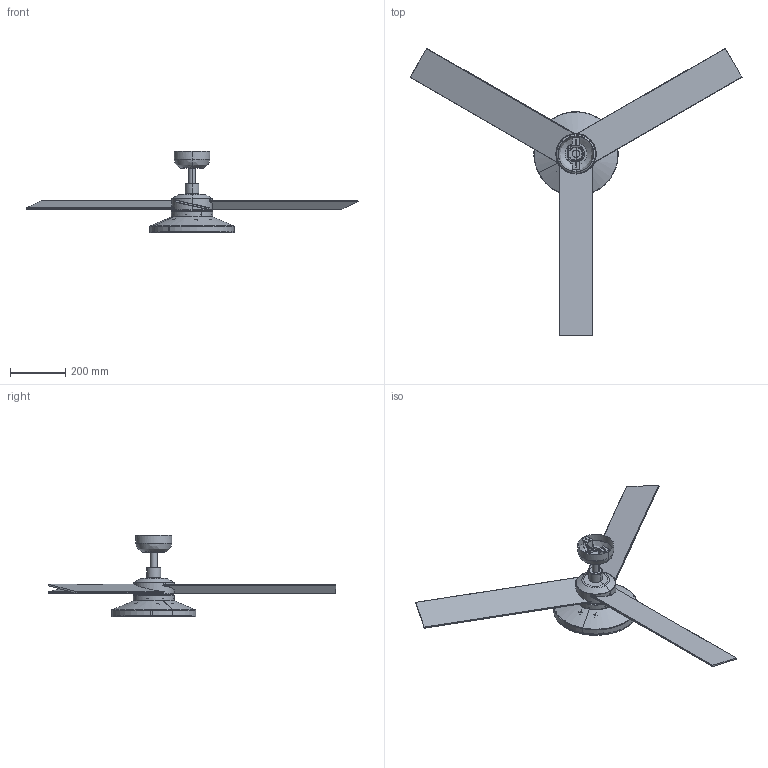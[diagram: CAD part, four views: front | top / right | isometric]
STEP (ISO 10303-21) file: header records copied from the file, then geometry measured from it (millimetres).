
FILE_DESCRIPTION(/* description */ (''),/* implementation_level */ '2;1');
FILE_NAME(/* name */ 'tak 3p 3d',/* time_stamp */ '2026-06-25T09:25:29+02:00',/* author */ (''),/* organization */ (''),/* preprocessor_version */ 'ST-DEVELOPER v19.2',/* originating_system */ 'Rhino 8.30',/* authorisation */ '');
FILE_SCHEMA (('CONFIG_CONTROL_DESIGN'));
Length unit declared in the file: millimetre
Products named in the file (1): Document
Bounding box: 1204.49 x 1043.19 x 296.86 mm (x, y, z)
Volume: 1517651.1 mm3; surface area: 1191673.7 mm2
Topology: 6 solids, 523 shells, 744 faces, 3437 edges, 3210 vertices
Faces by surface type: plane 405, cylinder 274, bspline 65
Entity records: 50034 total; most frequent: CARTESIAN_POINT 21827, ORIENTED_EDGE 4086, EDGE_CURVE 3437, VERTEX_POINT 3209, B_SPLINE_CURVE_WITH_KNOTS 2435, DIRECTION 2421, AXIS2_PLACEMENT_3D 1550, TRIMMED_CURVE 867
